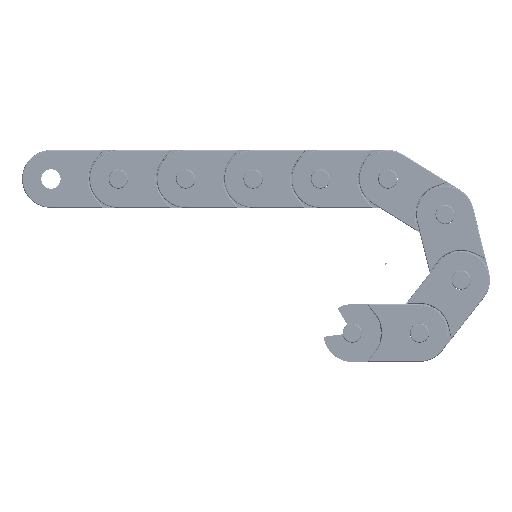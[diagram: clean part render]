
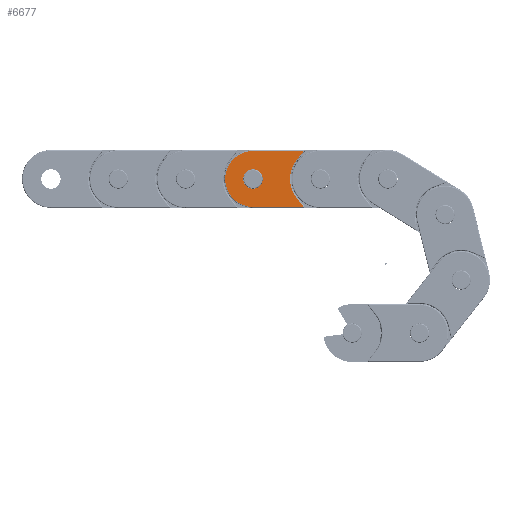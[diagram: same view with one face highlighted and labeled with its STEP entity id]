
A CAD part, left-side view. The second image highlights one B-rep face of the part: STEP entity #6677.
In plain terms, the highlighted free-form (B-spline) face has degree [1, 1] with [2, 2] control points.
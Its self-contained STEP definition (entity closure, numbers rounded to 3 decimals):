
#1404=CARTESIAN_POINT('',(60.0,12.85,15.));
#1405=VERTEX_POINT('',#1404);
#1406=CARTESIAN_POINT('',(60.0,17.9,15.));
#1407=DIRECTION('',(1.0,0.0,0.0));
#1408=DIRECTION('',(0.0,1.0,0.0));
#1409=AXIS2_PLACEMENT_3D('',#1406,#1407,#1408);
#1410=CIRCLE('',#1409,5.05);
#1411=EDGE_CURVE('',#1405,#1405,#1410,.T.);
#1976=CARTESIAN_POINT('',(60.0,-8.393,29.5));
#1977=VERTEX_POINT('',#1976);
#2031=CARTESIAN_POINT('',(60.0,-8.393,0.5));
#2032=VERTEX_POINT('',#2031);
#2076=CARTESIAN_POINT('',(60.0,-4.668,24.751));
#2077=VERTEX_POINT('',#2076);
#2085=CARTESIAN_POINT('',(60.0,-8.393,29.5));
#2086=DIRECTION('',(0.0,0.617,-0.787));
#2087=VECTOR('',#2086,6.035);
#2088=LINE('',#2085,#2087);
#2089=EDGE_CURVE('',#1977,#2077,#2088,.T.);
#2125=CARTESIAN_POINT('',(60.0,-4.668,5.249));
#2126=VERTEX_POINT('',#2125);
#2134=CARTESIAN_POINT('',(60.0,-17.1,15.));
#2135=DIRECTION('',(-1.0,0.0,0.0));
#2136=DIRECTION('',(0.0,1.,0.));
#2137=AXIS2_PLACEMENT_3D('',#2134,#2135,#2136);
#2138=CIRCLE('',#2137,15.8);
#2139=EDGE_CURVE('',#2077,#2126,#2138,.T.);
#2172=CARTESIAN_POINT('',(60.0,-4.668,5.249));
#2173=DIRECTION('',(0.0,-0.617,-0.787));
#2174=VECTOR('',#2173,6.035);
#2175=LINE('',#2172,#2174);
#2176=EDGE_CURVE('',#2126,#2032,#2175,.T.);
#2214=CARTESIAN_POINT('',(60.0,17.9,29.5));
#2215=VERTEX_POINT('',#2214);
#2232=CARTESIAN_POINT('',(60.0,17.9,29.5));
#2233=DIRECTION('',(0.0,-1.0,0.0));
#2234=VECTOR('',#2233,26.293);
#2235=LINE('',#2232,#2234);
#2236=EDGE_CURVE('',#2215,#1977,#2235,.T.);
#2294=CARTESIAN_POINT('',(60.0,17.9,0.5));
#2295=VERTEX_POINT('',#2294);
#2296=CARTESIAN_POINT('',(60.0,17.9,15.));
#2297=DIRECTION('',(1.0,0.0,0.0));
#2298=DIRECTION('',(0.0,1.0,0.0));
#2299=AXIS2_PLACEMENT_3D('',#2296,#2297,#2298);
#2300=CIRCLE('',#2299,14.5);
#2301=EDGE_CURVE('',#2295,#2215,#2300,.T.);
#2357=CARTESIAN_POINT('',(60.0,-8.393,0.5));
#2358=DIRECTION('',(0.0,1.0,0.0));
#2359=VECTOR('',#2358,26.293);
#2360=LINE('',#2357,#2359);
#2361=EDGE_CURVE('',#2032,#2295,#2360,.T.);
#6661=CARTESIAN_POINT('',(60.0,32.4,29.5));
#6662=CARTESIAN_POINT('',(60.0,-8.393,29.5));
#6663=CARTESIAN_POINT('',(60.0,32.4,0.5));
#6664=CARTESIAN_POINT('',(60.0,-8.393,0.5));
#6665=B_SPLINE_SURFACE_WITH_KNOTS('',1,1,((#6661,#6663),(#6662,#6664)),.UNSPECIFIED.,.F.,.F.,.U.,(2,2),(2,2),(0.0,40.793),(0.0,29.),.UNSPECIFIED.);
#6666=ORIENTED_EDGE('',*,*,#2361,.T.);
#6667=ORIENTED_EDGE('',*,*,#2301,.T.);
#6668=ORIENTED_EDGE('',*,*,#2236,.T.);
#6669=ORIENTED_EDGE('',*,*,#2089,.T.);
#6670=ORIENTED_EDGE('',*,*,#2139,.T.);
#6671=ORIENTED_EDGE('',*,*,#2176,.T.);
#6672=EDGE_LOOP('',(#6666,#6667,#6668,#6669,#6670,#6671));
#6673=FACE_OUTER_BOUND('',#6672,.T.);
#6674=ORIENTED_EDGE('',*,*,#1411,.F.);
#6675=EDGE_LOOP('',(#6674));
#6676=FACE_BOUND('',#6675,.T.);
#6677=ADVANCED_FACE('',(#6673,#6676),#6665,.T.);
